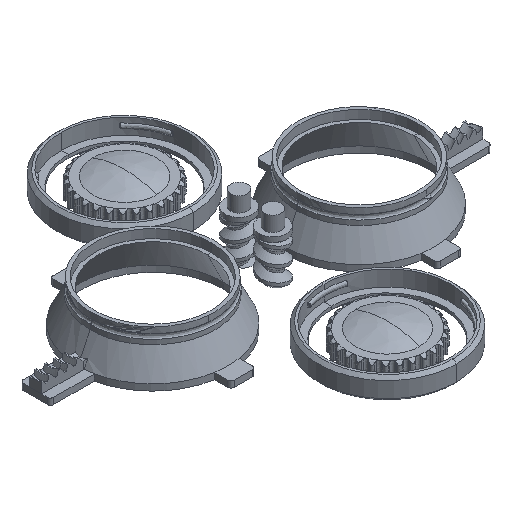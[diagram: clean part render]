
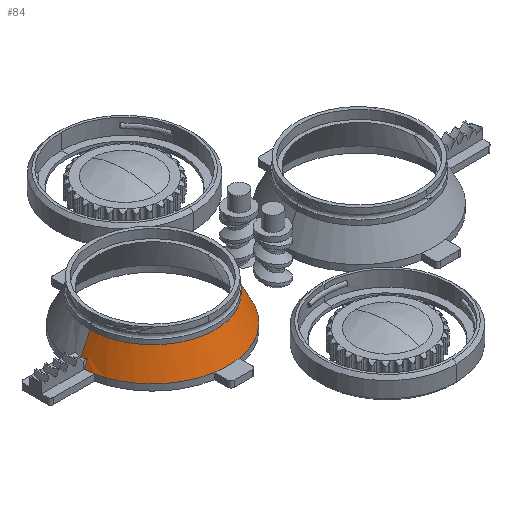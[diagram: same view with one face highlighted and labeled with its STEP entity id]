
A CAD part, isometric view. The second image highlights one B-rep face of the part: STEP entity #84.
In plain terms, the highlighted free-form (B-spline) face has degree [1, 2] with [2, 5] control points.
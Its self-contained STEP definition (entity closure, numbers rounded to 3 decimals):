
#84=ADVANCED_FACE('',(#580),#7716,.T.);
#580=FACE_OUTER_BOUND('',#1076,.T.);
#1076=EDGE_LOOP('',(#1747,#1748,#1749,#1750,#1751,#1752,#1753,#1754,#1755));
#1747=ORIENTED_EDGE('',*,*,#4304,.F.);
#1748=ORIENTED_EDGE('',*,*,#4305,.T.);
#1749=ORIENTED_EDGE('',*,*,#4316,.T.);
#1750=ORIENTED_EDGE('',*,*,#4308,.F.);
#1751=ORIENTED_EDGE('',*,*,#4311,.T.);
#1752=ORIENTED_EDGE('',*,*,#4307,.F.);
#1753=ORIENTED_EDGE('',*,*,#4313,.T.);
#1754=ORIENTED_EDGE('',*,*,#4310,.T.);
#1755=ORIENTED_EDGE('',*,*,#4391,.F.);
#4304=EDGE_CURVE('',#6926,#6976,#6102,.T.);
#4305=EDGE_CURVE('',#6926,#6927,#6103,.T.);
#4307=EDGE_CURVE('',#6931,#6930,#5533,.T.);
#4308=EDGE_CURVE('',#6932,#6933,#5534,.T.);
#4310=EDGE_CURVE('',#6935,#6977,#5536,.T.);
#4311=EDGE_CURVE('',#6932,#6930,#5537,.T.);
#4313=EDGE_CURVE('',#6931,#6935,#6104,.T.);
#4316=EDGE_CURVE('',#6927,#6933,#5540,.T.);
#4391=EDGE_CURVE('',#6976,#6977,#6150,.T.);
#5533=(
BOUNDED_CURVE()
B_SPLINE_CURVE(2,(#14930,#14931,#14932),.UNSPECIFIED.,.F.,.F.)
B_SPLINE_CURVE_WITH_KNOTS((3,3),(0.,8.093),.UNSPECIFIED.)
CURVE()
GEOMETRIC_REPRESENTATION_ITEM()
RATIONAL_B_SPLINE_CURVE((1.,0.762,1.))
REPRESENTATION_ITEM('')
);
#5534=(
BOUNDED_CURVE()
B_SPLINE_CURVE(2,(#14933,#14934,#14935),.UNSPECIFIED.,.F.,.F.)
B_SPLINE_CURVE_WITH_KNOTS((3,3),(9.97,16.89),
 .UNSPECIFIED.)
CURVE()
GEOMETRIC_REPRESENTATION_ITEM()
RATIONAL_B_SPLINE_CURVE((1.,0.824,1.))
REPRESENTATION_ITEM('')
);
#5536=(
BOUNDED_CURVE()
B_SPLINE_CURVE(2,(#14939,#14940,#14941,#14942,#14943),.UNSPECIFIED.,.F.,
 .F.)
B_SPLINE_CURVE_WITH_KNOTS((3,2,3),(0.,9.031,18.062),
 .UNSPECIFIED.)
CURVE()
GEOMETRIC_REPRESENTATION_ITEM()
RATIONAL_B_SPLINE_CURVE((1.,0.707,1.,0.707,1.))
REPRESENTATION_ITEM('')
);
#5537=(
BOUNDED_CURVE()
B_SPLINE_CURVE(2,(#14944,#14945,#14946),.UNSPECIFIED.,.F.,.F.)
B_SPLINE_CURVE_WITH_KNOTS((3,3),(-9.97,-8.093),
 .UNSPECIFIED.)
CURVE()
GEOMETRIC_REPRESENTATION_ITEM()
RATIONAL_B_SPLINE_CURVE((1.,0.987,1.))
REPRESENTATION_ITEM('')
);
#5540=(
BOUNDED_CURVE()
B_SPLINE_CURVE(2,(#14959,#14960,#14961),.UNSPECIFIED.,.F.,.F.)
B_SPLINE_CURVE_WITH_KNOTS((3,3),(-17.583,-16.89),
 .UNSPECIFIED.)
CURVE()
GEOMETRIC_REPRESENTATION_ITEM()
RATIONAL_B_SPLINE_CURVE((1.,0.998,1.))
REPRESENTATION_ITEM('')
);
#6102=B_SPLINE_CURVE_WITH_KNOTS('',3,(#14910,#14911,#14912,#14913,#14914,
#14915,#14916,#14917,#14918,#14919,#14920,#14921,#14922),.UNSPECIFIED.,
 .F.,.F.,(4,3,3,3,4),(0.,0.486,1.286,2.075,
2.108),.UNSPECIFIED.);
#6103=B_SPLINE_CURVE_WITH_KNOTS('',3,(#14923,#14924,#14925,#14926),
 .UNSPECIFIED.,.F.,.F.,(4,4),(0.,2.65),.UNSPECIFIED.);
#6104=B_SPLINE_CURVE_WITH_KNOTS('',1,(#14950,#14951),.UNSPECIFIED.,.F.,
 .F.,(2,2),(8.349,45.685),.UNSPECIFIED.);
#6150=B_SPLINE_CURVE_WITH_KNOTS('',1,(#15198,#15199),.UNSPECIFIED.,.F.,
 .F.,(2,2),(17.216,45.685),.UNSPECIFIED.);
#6926=VERTEX_POINT('',#14185);
#6927=VERTEX_POINT('',#14186);
#6930=VERTEX_POINT('',#14189);
#6931=VERTEX_POINT('',#14190);
#6932=VERTEX_POINT('',#14191);
#6933=VERTEX_POINT('',#14192);
#6935=VERTEX_POINT('',#14194);
#6976=VERTEX_POINT('',#14235);
#6977=VERTEX_POINT('',#14236);
#7716=(
BOUNDED_SURFACE()
B_SPLINE_SURFACE(1,2,((#13744,#13745,#13746,#13747,#13748),(#13749,#13750,
#13751,#13752,#13753)),.UNSPECIFIED.,.F.,.F.,.F.)
B_SPLINE_SURFACE_WITH_KNOTS((2,2),(3,2,3),(8.349,45.685),
(0.,9.031,18.062),.UNSPECIFIED.)
GEOMETRIC_REPRESENTATION_ITEM()
RATIONAL_B_SPLINE_SURFACE(((1.,0.707,1.,0.707,1.),
(1.,0.707,1.,0.707,1.)))
REPRESENTATION_ITEM('')
SURFACE()
);
#13744=CARTESIAN_POINT('',(-9.,0.,2.));
#13745=CARTESIAN_POINT('',(-9.,-24.,2.));
#13746=CARTESIAN_POINT('',(-33.,-24.,2.));
#13747=CARTESIAN_POINT('',(-57.,-24.,2.));
#13748=CARTESIAN_POINT('',(-57.,0.,2.));
#13749=CARTESIAN_POINT('',(-13.,0.,10.));
#13750=CARTESIAN_POINT('',(-13.,-20.,10.));
#13751=CARTESIAN_POINT('',(-33.,-20.,10.));
#13752=CARTESIAN_POINT('',(-53.,-20.,10.));
#13753=CARTESIAN_POINT('',(-53.,0.,10.));
#14185=CARTESIAN_POINT('',(-55.728,-2.,4.369));
#14186=CARTESIAN_POINT('',(-56.917,-2.,2.));
#14189=CARTESIAN_POINT('',(-29.1,-23.681,2.));
#14190=CARTESIAN_POINT('',(-9.,0.,2.));
#14191=CARTESIAN_POINT('',(-36.9,-23.681,2.));
#14192=CARTESIAN_POINT('',(-56.503,-4.861,2.));
#14194=CARTESIAN_POINT('',(-13.,0.,10.));
#14235=CARTESIAN_POINT('',(-56.05,0.,3.9));
#14236=CARTESIAN_POINT('',(-53.,0.,10.));
#14910=CARTESIAN_POINT('',(-55.728,-2.,4.369));
#14911=CARTESIAN_POINT('',(-55.775,-1.861,4.3));
#14912=CARTESIAN_POINT('',(-55.817,-1.718,4.238));
#14913=CARTESIAN_POINT('',(-55.855,-1.57,4.183));
#14914=CARTESIAN_POINT('',(-55.917,-1.327,4.092));
#14915=CARTESIAN_POINT('',(-55.965,-1.074,4.022));
#14916=CARTESIAN_POINT('',(-55.998,-0.814,3.974));
#14917=CARTESIAN_POINT('',(-56.031,-0.557,3.927));
#14918=CARTESIAN_POINT('',(-56.049,-0.296,3.902));
#14919=CARTESIAN_POINT('',(-56.05,-0.033,3.9));
#14920=CARTESIAN_POINT('',(-56.05,-0.022,3.9));
#14921=CARTESIAN_POINT('',(-56.05,-0.011,3.9));
#14922=CARTESIAN_POINT('',(-56.05,0.,3.9));
#14923=CARTESIAN_POINT('',(-55.728,-2.,4.369));
#14924=CARTESIAN_POINT('',(-56.124,-2.,3.579));
#14925=CARTESIAN_POINT('',(-56.52,-2.,2.79));
#14926=CARTESIAN_POINT('',(-56.917,-2.,2.));
#14930=CARTESIAN_POINT('',(-9.,0.,2.));
#14931=CARTESIAN_POINT('',(-9.,-20.371,2.));
#14932=CARTESIAN_POINT('',(-29.1,-23.681,2.));
#14933=CARTESIAN_POINT('',(-36.9,-23.681,2.));
#14934=CARTESIAN_POINT('',(-53.164,-21.003,2.));
#14935=CARTESIAN_POINT('',(-56.503,-4.861,2.));
#14939=CARTESIAN_POINT('',(-13.,0.,10.));
#14940=CARTESIAN_POINT('',(-13.,-20.,10.));
#14941=CARTESIAN_POINT('',(-33.,-20.,10.));
#14942=CARTESIAN_POINT('',(-53.,-20.,10.));
#14943=CARTESIAN_POINT('',(-53.,0.,10.));
#14944=CARTESIAN_POINT('',(-36.9,-23.681,2.));
#14945=CARTESIAN_POINT('',(-33.,-24.323,2.));
#14946=CARTESIAN_POINT('',(-29.1,-23.681,2.));
#14950=CARTESIAN_POINT('',(-9.,0.,2.));
#14951=CARTESIAN_POINT('',(-13.,0.,10.));
#14959=CARTESIAN_POINT('',(-56.917,-2.,2.));
#14960=CARTESIAN_POINT('',(-56.796,-3.443,2.));
#14961=CARTESIAN_POINT('',(-56.503,-4.861,2.));
#15198=CARTESIAN_POINT('',(-56.05,0.,3.9));
#15199=CARTESIAN_POINT('',(-53.,0.,10.));
